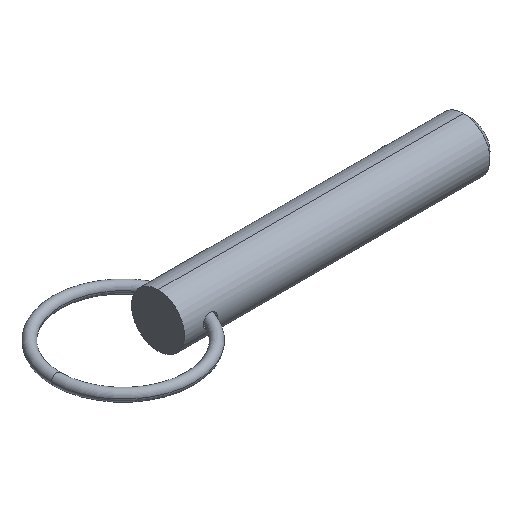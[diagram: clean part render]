
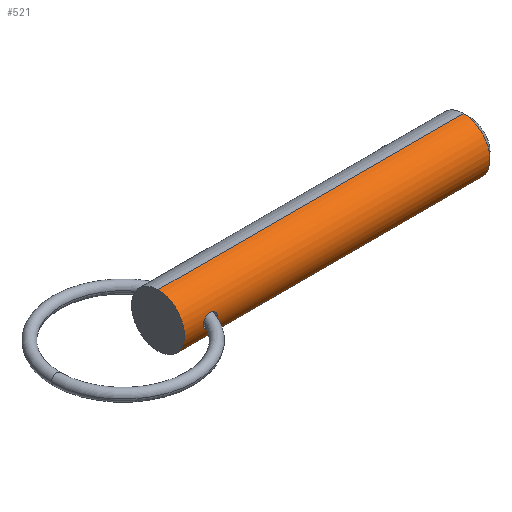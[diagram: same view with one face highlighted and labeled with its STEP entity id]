
A CAD part, isometric view. The second image highlights one B-rep face of the part: STEP entity #521.
In plain terms, the highlighted cylindrical face has radius 6.35 mm (diameter 12.7 mm), a partial arc.
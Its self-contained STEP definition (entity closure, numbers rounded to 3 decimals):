
#19 = CARTESIAN_POINT ( 'NONE',  ( 4.52, -6.336, -0.428 ) ) ;
#56 = CARTESIAN_POINT ( 'NONE',  ( 5.68, -6.172, -1.492 ) ) ;
#57 = CARTESIAN_POINT ( 'NONE',  ( 5.191, -6.224, 1.268 ) ) ;
#59 = CARTESIAN_POINT ( 'NONE',  ( 0., 0., 0. ) ) ;
#63 = EDGE_CURVE ( 'NONE', #358, #486, #282, .T. ) ;
#73 = EDGE_CURVE ( 'NONE', #329, #358, #542, .T. ) ;
#86 = CARTESIAN_POINT ( 'NONE',  ( 7.865, -6.336, -0.432 ) ) ;
#90 = CARTESIAN_POINT ( 'NONE',  ( 4.722, -6.298, -0.813 ) ) ;
#91 = EDGE_CURVE ( 'NONE', #756, #624, #853, .T. ) ;
#92 = DIRECTION ( 'NONE',  ( 0., 0., -1. ) ) ;
#116 = CARTESIAN_POINT ( 'NONE',  ( 6.652, -6.157, 1.554 ) ) ;
#120 = CARTESIAN_POINT ( 'NONE',  ( 4.713, -6.3, 0.82 ) ) ;
#124 = CARTESIAN_POINT ( 'NONE',  ( 5.784, -6.165, -1.523 ) ) ;
#125 = CARTESIAN_POINT ( 'NONE',  ( 4.452, -6.35, 0. ) ) ;
#127 = CARTESIAN_POINT ( 'NONE',  ( 5.477, -6.191, -1.414 ) ) ;
#133 = CARTESIAN_POINT ( 'NONE',  ( 0., 0., 0. ) ) ;
#140 = CARTESIAN_POINT ( 'NONE',  ( 4.452, -6.35, 0. ) ) ;
#141 = CARTESIAN_POINT ( 'NONE',  ( 0., 0., -6.35 ) ) ;
#157 = CARTESIAN_POINT ( 'NONE',  ( 5.192, -6.225, -1.257 ) ) ;
#161 = CARTESIAN_POINT ( 'NONE',  ( 4.452, -6.35, 0. ) ) ;
#182 = EDGE_CURVE ( 'NONE', #550, #486, #877, .T. ) ;
#195 = CARTESIAN_POINT ( 'NONE',  ( 6.107, -6.15, -1.582 ) ) ;
#198 = CARTESIAN_POINT ( 'NONE',  ( 5.685, -6.172, 1.494 ) ) ;
#200 = DIRECTION ( 'NONE',  ( 1., 0., 0. ) ) ;
#236 = CARTESIAN_POINT ( 'NONE',  ( 0., 0., 6.35 ) ) ;
#260 = CYLINDRICAL_SURFACE ( 'NONE', #529, 6.35 ) ;
#270 = CARTESIAN_POINT ( 'NONE',  ( 4.452, -6.35, 0.219 ) ) ;
#275 = EDGE_LOOP ( 'NONE', ( #536, #412 ) ) ;
#276 = CARTESIAN_POINT ( 'NONE',  ( 73.013, 0., -6.35 ) ) ;
#278 = ORIENTED_EDGE ( 'NONE', *, *, #182, .F. ) ;
#281 = CARTESIAN_POINT ( 'NONE',  ( 7.875, -6.338, 0.437 ) ) ;
#282 = LINE ( 'NONE', #141, #377 ) ;
#295 = DIRECTION ( 'NONE',  ( 1., 0., 0. ) ) ;
#308 = CARTESIAN_POINT ( 'NONE',  ( 4.938, -6.262, -1.058 ) ) ;
#329 = VERTEX_POINT ( 'NONE', #236 ) ;
#346 = CARTESIAN_POINT ( 'NONE',  ( 7.704, -6.298, 0.835 ) ) ;
#358 = VERTEX_POINT ( 'NONE', #653 ) ;
#372 = CARTESIAN_POINT ( 'NONE',  ( 4.662, -6.309, -0.723 ) ) ;
#377 = VECTOR ( 'NONE', #836, 1000. ) ;
#393 = CARTESIAN_POINT ( 'NONE',  ( 7.92, -6.35, -0.109 ) ) ;
#399 = CARTESIAN_POINT ( 'NONE',  ( 7.576, -6.27, 1.017 ) ) ;
#406 = CARTESIAN_POINT ( 'NONE',  ( 7.92, -6.35, 0. ) ) ;
#409 = CARTESIAN_POINT ( 'NONE',  ( 6.759, -6.163, 1.529 ) ) ;
#412 = ORIENTED_EDGE ( 'NONE', *, *, #91, .T. ) ;
#423 = CARTESIAN_POINT ( 'NONE',  ( 7.568, -6.27, -1.008 ) ) ;
#430 = CARTESIAN_POINT ( 'NONE',  ( 0., 0., 6.35 ) ) ;
#436 = CARTESIAN_POINT ( 'NONE',  ( 7.693, -6.296, -0.832 ) ) ;
#440 = CARTESIAN_POINT ( 'NONE',  ( 5.378, -6.201, -1.366 ) ) ;
#446 = CARTESIAN_POINT ( 'NONE',  ( 73.013, 0., 0. ) ) ;
#472 = CARTESIAN_POINT ( 'NONE',  ( 5.998, -6.153, -1.568 ) ) ;
#478 = CARTESIAN_POINT ( 'NONE',  ( 4.856, -6.274, 0.989 ) ) ;
#479 = CARTESIAN_POINT ( 'NONE',  ( 6.655, -6.155, -1.565 ) ) ;
#481 = CARTESIAN_POINT ( 'NONE',  ( 5.789, -6.164, 1.525 ) ) ;
#486 = VERTEX_POINT ( 'NONE', #276 ) ;
#494 = EDGE_CURVE ( 'NONE', #624, #756, #771, .T. ) ;
#500 = AXIS2_PLACEMENT_3D ( 'NONE', #446, #721, #578 ) ;
#503 = CARTESIAN_POINT ( 'NONE',  ( 7.746, -6.308, -0.737 ) ) ;
#509 = CARTESIAN_POINT ( 'NONE',  ( 4.452, -6.35, -0.109 ) ) ;
#521 = ADVANCED_FACE ( 'NONE', ( #881, #671 ), #260, .T. ) ;
#529 = AXIS2_PLACEMENT_3D ( 'NONE', #133, #678, #884 ) ;
#536 = ORIENTED_EDGE ( 'NONE', *, *, #494, .T. ) ;
#542 = CIRCLE ( 'NONE', #892, 6.35 ) ;
#545 = CARTESIAN_POINT ( 'NONE',  ( 6.002, -6.153, 1.569 ) ) ;
#549 = CARTESIAN_POINT ( 'NONE',  ( 5.381, -6.199, 1.378 ) ) ;
#550 = VERTEX_POINT ( 'NONE', #572 ) ;
#553 = CARTESIAN_POINT ( 'NONE',  ( 7.92, -6.35, 0. ) ) ;
#554 = CARTESIAN_POINT ( 'NONE',  ( 7.909, -6.347, -0.22 ) ) ;
#555 = ORIENTED_EDGE ( 'NONE', *, *, #63, .T. ) ;
#559 = CARTESIAN_POINT ( 'NONE',  ( 7.92, -6.35, 0. ) ) ;
#572 = CARTESIAN_POINT ( 'NONE',  ( 73.013, 0., 6.35 ) ) ;
#577 = CARTESIAN_POINT ( 'NONE',  ( 4.86, -6.274, -0.98 ) ) ;
#578 = DIRECTION ( 'NONE',  ( 0., 0., -1. ) ) ;
#604 = CARTESIAN_POINT ( 'NONE',  ( 6.965, -6.181, 1.458 ) ) ;
#607 = CARTESIAN_POINT ( 'NONE',  ( 7.063, -6.191, 1.413 ) ) ;
#611 = CARTESIAN_POINT ( 'NONE',  ( 7.338, -6.229, 1.237 ) ) ;
#624 = VERTEX_POINT ( 'NONE', #140 ) ;
#629 = CARTESIAN_POINT ( 'NONE',  ( 7.336, -6.229, -1.238 ) ) ;
#653 = CARTESIAN_POINT ( 'NONE',  ( 0., 0., -6.35 ) ) ;
#657 = CARTESIAN_POINT ( 'NONE',  ( 7.25, -6.215, -1.302 ) ) ;
#671 = FACE_BOUND ( 'NONE', #275, .T. ) ;
#677 = ORIENTED_EDGE ( 'NONE', *, *, #73, .T. ) ;
#678 = DIRECTION ( 'NONE',  ( 1., 0., 0. ) ) ;
#687 = VECTOR ( 'NONE', #295, 1000. ) ;
#701 = CARTESIAN_POINT ( 'NONE',  ( 7.496, -6.256, -1.091 ) ) ;
#707 = CARTESIAN_POINT ( 'NONE',  ( 7.833, -6.328, -0.536 ) ) ;
#712 = CARTESIAN_POINT ( 'NONE',  ( 5.104, -6.237, -1.196 ) ) ;
#721 = DIRECTION ( 'NONE',  ( 1., 0., 0. ) ) ;
#740 = EDGE_LOOP ( 'NONE', ( #824, #677, #555, #278 ) ) ;
#741 = CARTESIAN_POINT ( 'NONE',  ( 7.249, -6.215, 1.303 ) ) ;
#749 = EDGE_CURVE ( 'NONE', #329, #550, #764, .T. ) ;
#751 = CARTESIAN_POINT ( 'NONE',  ( 7.92, -6.35, 0.218 ) ) ;
#756 = VERTEX_POINT ( 'NONE', #559 ) ;
#764 = LINE ( 'NONE', #430, #687 ) ;
#771 = B_SPLINE_CURVE_WITH_KNOTS ( 'NONE', 3,
 ( #125, #270, #897, #120, #478, #57, #549, #198, #481, #545, #808, #820, #827, #116, #409, #604, #607, #741, #611, #399, #346, #281, #751, #553 ),
 .UNSPECIFIED., .F., .F.,
 ( 4, 2, 2, 2, 2, 2, 2, 2, 2, 2, 2, 4 ),
 ( 0.001, 0.002, 0.002, 0.003, 0.003, 0.004, 0.004, 0.004, 0.005, 0.005, 0.006, 0.006 ),
 .UNSPECIFIED. ) ;
#784 = CARTESIAN_POINT ( 'NONE',  ( 4.56, -6.329, -0.53 ) ) ;
#808 = CARTESIAN_POINT ( 'NONE',  ( 6.111, -6.15, 1.582 ) ) ;
#810 = CARTESIAN_POINT ( 'NONE',  ( 6.963, -6.18, -1.459 ) ) ;
#811 = CARTESIAN_POINT ( 'NONE',  ( 6.434, -6.147, -1.595 ) ) ;
#820 = CARTESIAN_POINT ( 'NONE',  ( 6.329, -6.148, 1.59 ) ) ;
#824 = ORIENTED_EDGE ( 'NONE', *, *, #749, .F. ) ;
#827 = CARTESIAN_POINT ( 'NONE',  ( 6.437, -6.149, 1.585 ) ) ;
#836 = DIRECTION ( 'NONE',  ( 1., 0., 0. ) ) ;
#852 = CARTESIAN_POINT ( 'NONE',  ( 4.466, -6.347, -0.219 ) ) ;
#853 = B_SPLINE_CURVE_WITH_KNOTS ( 'NONE', 3,
 ( #406, #393, #554, #86, #707, #503, #436, #423, #701, #629, #657, #874, #810, #479, #811, #195, #472, #124, #56, #127, #440, #157, #712, #308, #577, #90, #372, #784, #19, #852, #509, #161 ),
 .UNSPECIFIED., .F., .F.,
 ( 4, 2, 2, 2, 2, 2, 2, 2, 2, 2, 2, 2, 2, 2, 2, 4 ),
 ( 0.006, 0.007, 0.007, 0.007, 0.008, 0.008, 0.008, 0.009, 0.009, 0.01, 0.01, 0.01, 0.011, 0.011, 0.011, 0.012 ),
 .UNSPECIFIED. ) ;
#874 = CARTESIAN_POINT ( 'NONE',  ( 7.063, -6.191, -1.413 ) ) ;
#877 = CIRCLE ( 'NONE', #500, 6.35 ) ;
#881 = FACE_OUTER_BOUND ( 'NONE', #740, .T. ) ;
#884 = DIRECTION ( 'NONE',  ( 0., 0., -1. ) ) ;
#892 = AXIS2_PLACEMENT_3D ( 'NONE', #59, #200, #92 ) ;
#897 = CARTESIAN_POINT ( 'NONE',  ( 4.51, -6.338, 0.435 ) ) ;
